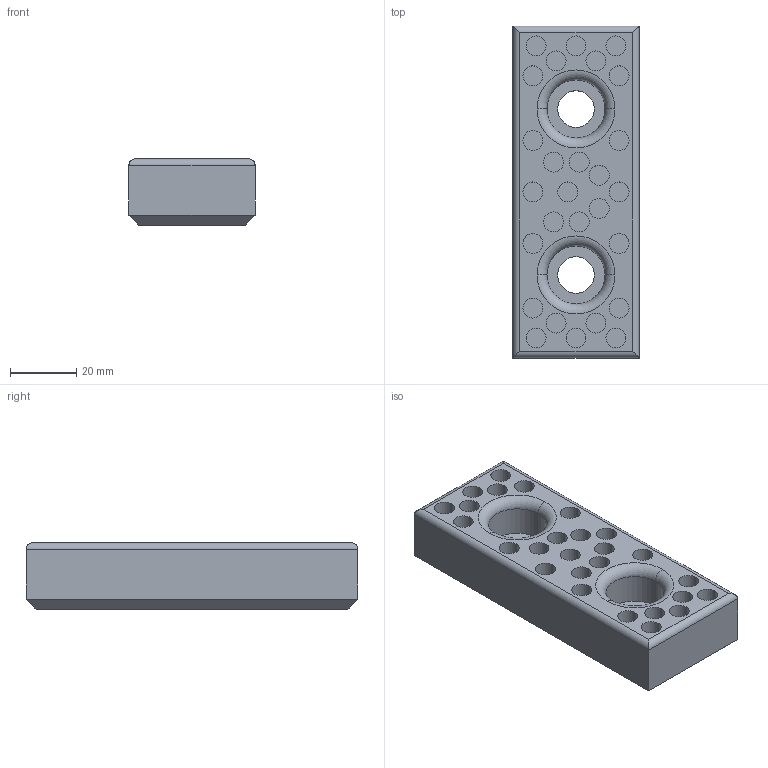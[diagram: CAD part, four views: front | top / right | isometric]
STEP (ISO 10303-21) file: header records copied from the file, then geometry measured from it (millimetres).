
FILE_DESCRIPTION (( 'STEP AP214' ), '1' );
FILE_NAME ('SW224-02-38x100.STEP', '2020-10-19T07:34:39', ( 'August' ), ( '' ), 'SwSTEP 2.0', 'SolidWorks 2018', '' );
FILE_SCHEMA (( 'AUTOMOTIVE_DESIGN' ));
Length unit declared in the file: millimetre
Products named in the file (1): SW224-02-38x100
Bounding box: 38 x 100 x 20 mm (x, y, z)
Volume: 61847.4 mm3; surface area: 17200.3 mm2
Topology: 1 solids, 1 shells, 109 faces, 222 edges, 144 vertices
Faces by surface type: cylinder 66, plane 39, torus 4
Entity records: 3430 total; most frequent: CARTESIAN_POINT 660, DIRECTION 566, ORIENTED_EDGE 444, AXIS2_PLACEMENT_3D 242, EDGE_CURVE 222, VERTEX_POINT 144, EDGE_LOOP 142, CIRCLE 132
